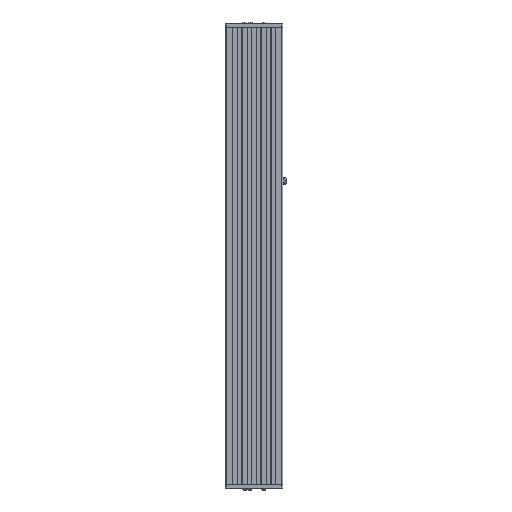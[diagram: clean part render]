
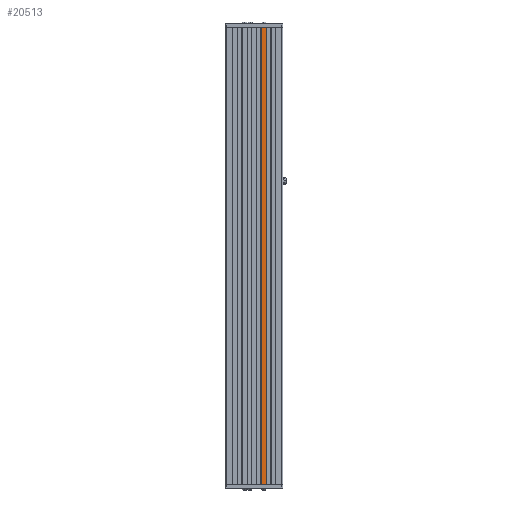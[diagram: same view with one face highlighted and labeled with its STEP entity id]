
A CAD part, front view. The second image highlights one B-rep face of the part: STEP entity #20513.
In plain terms, the highlighted planar face has unit normal (0, -1, 0).
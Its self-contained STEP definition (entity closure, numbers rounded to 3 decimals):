
#7338 = FACE_OUTER_BOUND ( 'NONE', #8735, .T. ) ;
#8735 = EDGE_LOOP ( 'NONE', ( #31231, #31230, #31229, #31228 ) ) ;
#8875 = VERTEX_POINT ( 'NONE', #31793 ) ;
#8990 = VERTEX_POINT ( 'NONE', #31911 ) ;
#11913 = LINE ( 'NONE', #39579, #11916 ) ;
#11916 = VECTOR ( 'NONE', #39580, 1000. ) ;
#11918 = LINE ( 'NONE', #39581, #11920 ) ;
#11920 = VECTOR ( 'NONE', #39582, 1000. ) ;
#14026 = EDGE_CURVE ( 'NONE', #8875, #43058, #11913, .T. ) ;
#14027 = EDGE_CURVE ( 'NONE', #8990, #43052, #11918, .T. ) ;
#16162 = CARTESIAN_POINT ( 'NONE',  ( 17.574, -36.246, 0. ) ) ;
#16163 = DIRECTION ( 'NONE',  ( 1., 0., 0. ) ) ;
#16333 = CARTESIAN_POINT ( 'NONE',  ( 17.574, -36.246, 1076. ) ) ;
#16334 = DIRECTION ( 'NONE',  ( 1., 0., 0. ) ) ;
#18770 = LINE ( 'NONE', #16162, #18772 ) ;
#18772 = VECTOR ( 'NONE', #16163, 1000. ) ;
#18955 = LINE ( 'NONE', #16333, #18956 ) ;
#18956 = VECTOR ( 'NONE', #16334, 1000. ) ;
#20513 = ADVANCED_FACE ( 'NONE', ( #7338 ), #33009, .F. ) ;
#22729 = CARTESIAN_POINT ( 'NONE',  ( 29.574, -36.246, 0. ) ) ;
#22735 = CARTESIAN_POINT ( 'NONE',  ( 17.574, -36.246, 0. ) ) ;
#27935 = EDGE_CURVE ( 'NONE', #43058, #43052, #18770, .T. ) ;
#28016 = EDGE_CURVE ( 'NONE', #8875, #8990, #18955, .T. ) ;
#31228 = ORIENTED_EDGE ( 'NONE', *, *, #14026, .T. ) ;
#31229 = ORIENTED_EDGE ( 'NONE', *, *, #28016, .F. ) ;
#31230 = ORIENTED_EDGE ( 'NONE', *, *, #14027, .F. ) ;
#31231 = ORIENTED_EDGE ( 'NONE', *, *, #27935, .T. ) ;
#31793 = CARTESIAN_POINT ( 'NONE',  ( 17.574, -36.246, 1076. ) ) ;
#31911 = CARTESIAN_POINT ( 'NONE',  ( 29.574, -36.246, 1076. ) ) ;
#33009 = PLANE ( 'NONE',  #35283 ) ;
#33010 = CARTESIAN_POINT ( 'NONE',  ( 17.574, -36.246, 1076. ) ) ;
#33011 = DIRECTION ( 'NONE',  ( 0., 1., 0. ) ) ;
#33012 = DIRECTION ( 'NONE',  ( 0., 0., 1. ) ) ;
#35283 = AXIS2_PLACEMENT_3D ( 'NONE', #33010, #33011, #33012 ) ;
#39579 = CARTESIAN_POINT ( 'NONE',  ( 17.574, -36.246, 1076. ) ) ;
#39580 = DIRECTION ( 'NONE',  ( 0., 0., -1. ) ) ;
#39581 = CARTESIAN_POINT ( 'NONE',  ( 29.574, -36.246, 1076. ) ) ;
#39582 = DIRECTION ( 'NONE',  ( 0., 0., -1. ) ) ;
#43052 = VERTEX_POINT ( 'NONE', #22729 ) ;
#43058 = VERTEX_POINT ( 'NONE', #22735 ) ;
